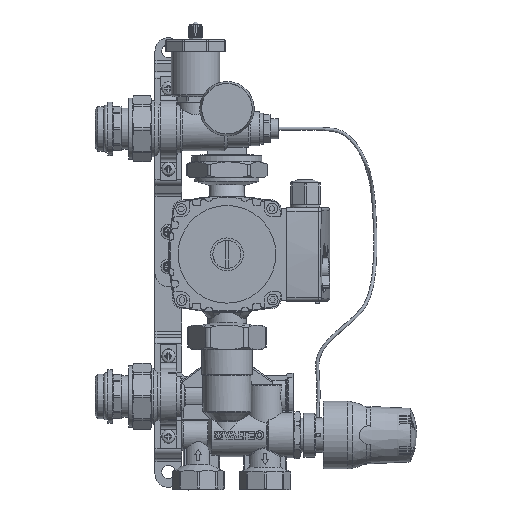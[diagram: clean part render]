
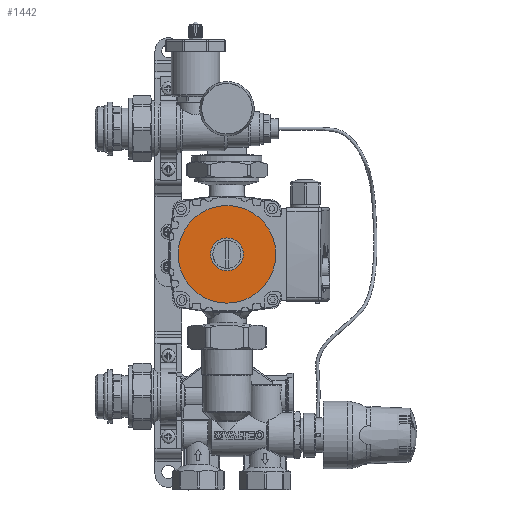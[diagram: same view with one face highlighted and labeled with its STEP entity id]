
A CAD part, left-side view. The second image highlights one B-rep face of the part: STEP entity #1442.
In plain terms, the highlighted planar face has unit normal (-1, 0, 0).
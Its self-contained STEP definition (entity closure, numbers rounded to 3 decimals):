
#1442=ADVANCED_FACE('',(#49548,#49550),#49552,.T.);
#49548=FACE_BOUND('',#49549,.T.);
#49549=EDGE_LOOP('',(#63072));
#49550=FACE_BOUND('',#49551,.T.);
#49551=EDGE_LOOP('',(#63073));
#49552=PLANE('',#49553);
#49553=AXIS2_PLACEMENT_3D('',#49554,#49555,#49556);
#49554=CARTESIAN_POINT('',(-89.3,-64.5,-93.85));
#49555=DIRECTION('',(-1.,0.,0.));
#49556=DIRECTION('',(0.,-1.,0.));
#63072=ORIENTED_EDGE('',*,*,#70405,.T.);
#63073=ORIENTED_EDGE('',*,*,#70534,.T.);
#70405=EDGE_CURVE('',#78171,#78171,#78172,.T.);
#70534=EDGE_CURVE('',#78399,#78399,#78400,.F.);
#78171=VERTEX_POINT('',#112786);
#78172=CIRCLE('',#112787,36.5);
#78399=VERTEX_POINT('',#114146);
#78400=CIRCLE('',#114147,12.25);
#112786=CARTESIAN_POINT('',(-89.3,-101.,-93.85));
#112787=AXIS2_PLACEMENT_3D('',#112788,#112789,#112790);
#112788=CARTESIAN_POINT('',(-89.3,-64.5,-93.85));
#112789=DIRECTION('',(-1.,0.,0.));
#112790=DIRECTION('',(0.,-1.,0.));
#114146=CARTESIAN_POINT('',(-89.3,-52.25,-93.85));
#114147=AXIS2_PLACEMENT_3D('',#114148,#114149,#114150);
#114148=CARTESIAN_POINT('',(-89.3,-64.5,-93.85));
#114149=DIRECTION('',(-1.,0.,0.));
#114150=DIRECTION('',(0.,1.,0.));
